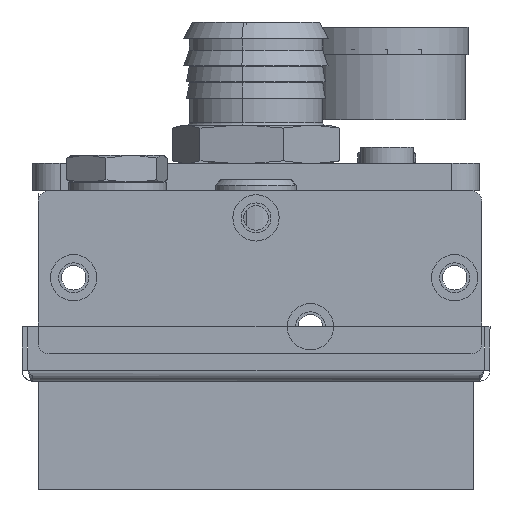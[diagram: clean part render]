
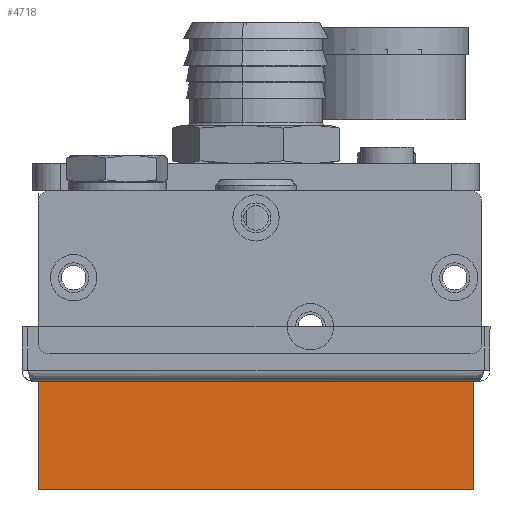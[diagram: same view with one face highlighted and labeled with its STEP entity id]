
A CAD part, front view. The second image highlights one B-rep face of the part: STEP entity #4718.
In plain terms, the highlighted planar face has unit normal (0, -1, 0).
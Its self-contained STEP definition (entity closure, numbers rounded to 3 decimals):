
#4683 = EDGE_LOOP ( 'NONE', ( #4715, #4706, #4699, #4722 ) ) ;
#4685 = VERTEX_POINT ( 'NONE', #20634 ) ;
#4699 = ORIENTED_EDGE ( 'NONE', *, *, #4709, .F. ) ;
#4700 = EDGE_CURVE ( 'NONE', #4710, #4716, #20522, .T. ) ;
#4701 = EDGE_CURVE ( 'NONE', #4716, #4738, #20518, .T. ) ;
#4706 = ORIENTED_EDGE ( 'NONE', *, *, #4717, .F. ) ;
#4709 = EDGE_CURVE ( 'NONE', #4710, #4685, #20567, .T. ) ;
#4710 = VERTEX_POINT ( 'NONE', #20563 ) ;
#4715 = ORIENTED_EDGE ( 'NONE', *, *, #4701, .T. ) ;
#4716 = VERTEX_POINT ( 'NONE', #20553 ) ;
#4717 = EDGE_CURVE ( 'NONE', #4685, #4738, #20551, .T. ) ;
#4718 = ADVANCED_FACE ( 'NONE', ( #20547 ), #20592, .F. ) ;
#4722 = ORIENTED_EDGE ( 'NONE', *, *, #4700, .T. ) ;
#4738 = VERTEX_POINT ( 'NONE', #20780 ) ;
#20515 = DIRECTION ( 'NONE',  ( -1., 0., 0. ) ) ;
#20516 = VECTOR ( 'NONE', #20515, 1000. ) ;
#20517 = CARTESIAN_POINT ( 'NONE',  ( -1.975, -289.525, 153.916 ) ) ;
#20518 = LINE ( 'NONE', #20517, #20516 ) ;
#20519 = DIRECTION ( 'NONE',  ( 0., 0., 1. ) ) ;
#20520 = VECTOR ( 'NONE', #20519, 1000. ) ;
#20521 = CARTESIAN_POINT ( 'NONE',  ( 78.025, -289.525, 133.916 ) ) ;
#20522 = LINE ( 'NONE', #20521, #20520 ) ;
#20547 = FACE_OUTER_BOUND ( 'NONE', #4683, .T. ) ;
#20548 = DIRECTION ( 'NONE',  ( 0., 0., 1. ) ) ;
#20549 = VECTOR ( 'NONE', #20548, 1000. ) ;
#20550 = CARTESIAN_POINT ( 'NONE',  ( -1.975, -289.525, 133.916 ) ) ;
#20551 = LINE ( 'NONE', #20550, #20549 ) ;
#20553 = CARTESIAN_POINT ( 'NONE',  ( 78.025, -289.525, 153.916 ) ) ;
#20563 = CARTESIAN_POINT ( 'NONE',  ( 78.025, -289.525, 133.916 ) ) ;
#20564 = DIRECTION ( 'NONE',  ( -1., 0., 0. ) ) ;
#20565 = VECTOR ( 'NONE', #20564, 1000. ) ;
#20566 = CARTESIAN_POINT ( 'NONE',  ( -1.975, -289.525, 133.916 ) ) ;
#20567 = LINE ( 'NONE', #20566, #20565 ) ;
#20587 = DIRECTION ( 'NONE',  ( 1., 0., 0. ) ) ;
#20588 = DIRECTION ( 'NONE',  ( 0., 1., 0. ) ) ;
#20589 = CARTESIAN_POINT ( 'NONE',  ( -1.975, -289.525, 133.916 ) ) ;
#20590 = AXIS2_PLACEMENT_3D ( 'NONE', #20589, #20588, #20587 ) ;
#20592 = PLANE ( 'NONE',  #20590 ) ;
#20634 = CARTESIAN_POINT ( 'NONE',  ( -1.975, -289.525, 133.916 ) ) ;
#20780 = CARTESIAN_POINT ( 'NONE',  ( -1.975, -289.525, 153.916 ) ) ;
